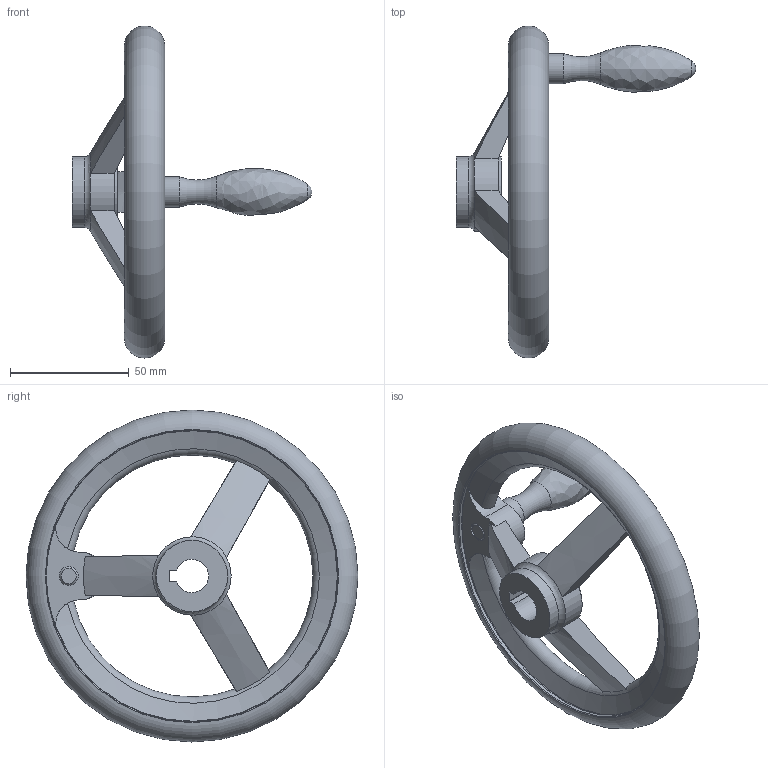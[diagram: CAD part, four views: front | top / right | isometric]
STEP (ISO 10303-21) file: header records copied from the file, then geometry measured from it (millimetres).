
FILE_DESCRIPTION( ( 'STEP AP203' ), '1' );
FILE_NAME( 'C:/Temp/Ganter_Step_05_03_2020/data/1_3/din_950/din_950_k/din_950_k_f/Handwheel DIN 950-GG-140-K14-F.stp', '2020-03-05T10:31:13', ( 'License CC BY-ND 4.0' ), ( 'CADENAS' ), ' ', 'PARTsolutions', ' ' );
FILE_SCHEMA( ( 'CONFIG_CONTROL_DESIGN' ) );
Length unit declared in the file: millimetre
Products named in the file (1): _Handwheel DIN 950-GG-140-K14-F
Bounding box: 101 x 139.99 x 139.99 mm (x, y, z)
Volume: 121699.2 mm3; surface area: 34312.5 mm2
Topology: 1 solids, 1 shells, 49 faces, 140 edges, 90 vertices
Faces by surface type: cylinder 15, plane 14, torus 11, cone 7, sphere 1, bspline 1
Full cylindrical faces by diameter (mm): 8 x1, 12.8 x1, 30 x2, 123 x2
Entity records: 1869 total; most frequent: CARTESIAN_POINT 682, DIRECTION 228, ORIENTED_EDGE 228, EDGE_CURVE 114, AXIS2_PLACEMENT_3D 102, VERTEX_POINT 84, EDGE_LOOP 72, FACE_OUTER_BOUND 64
